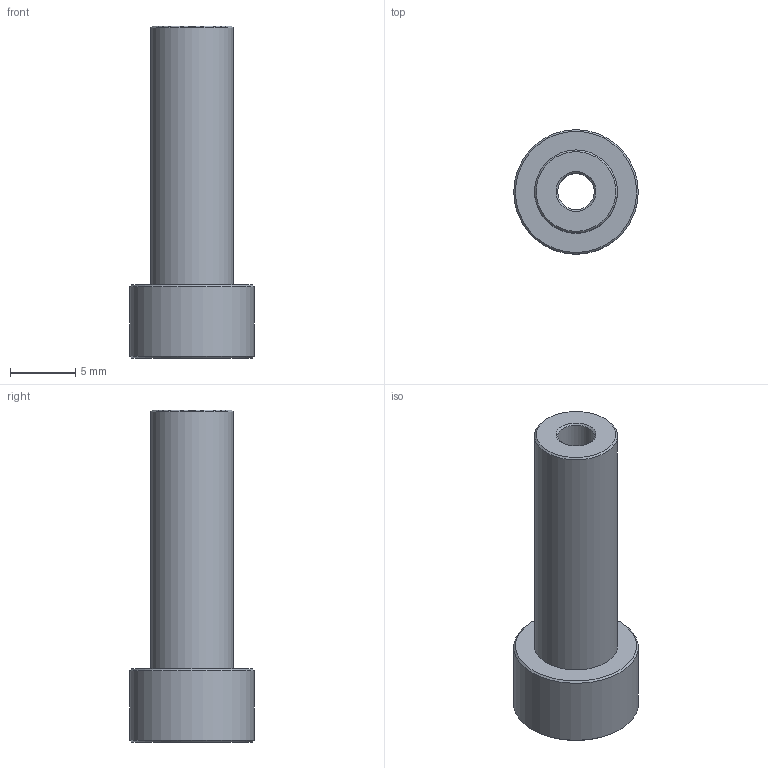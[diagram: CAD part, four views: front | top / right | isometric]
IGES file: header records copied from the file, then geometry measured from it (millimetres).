
Global section: file name: No Iges File Name specified; native system: AutoDesk Inventor R6.0; preprocessor: AutoDesk Inventor Iges Exporter R6.0; author: No Author specified; organization: No Organization specified; date: 20081220.163453; units: inch
Bounding box: 9.53 x 9.53 x 25.4 mm (x, y, z)
Surface area: 935.2 mm2 (no closed solid volume)
Topology: 0 solids, 0 shells, 13 faces, 36 edges, 27 vertices
Faces by surface type: revolution 7, plane 3, bspline 3
